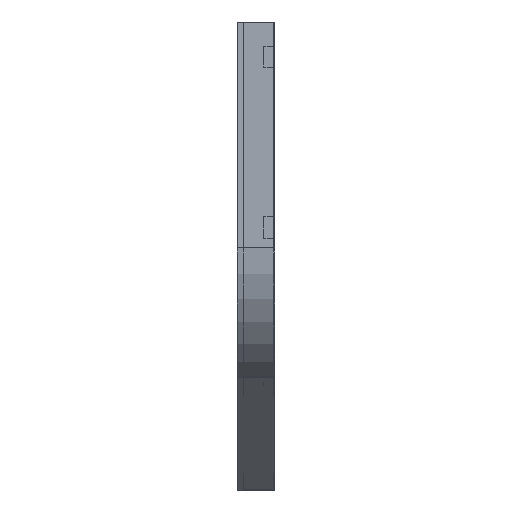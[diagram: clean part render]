
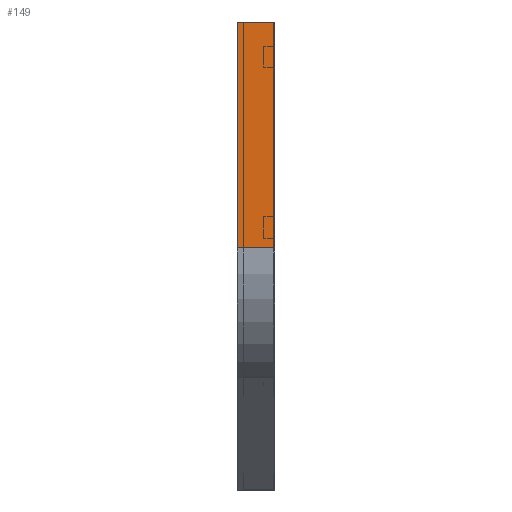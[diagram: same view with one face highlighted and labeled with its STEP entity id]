
A CAD part, left-side view. The second image highlights one B-rep face of the part: STEP entity #149.
In plain terms, the highlighted planar face has unit normal (-1, 0, 0).
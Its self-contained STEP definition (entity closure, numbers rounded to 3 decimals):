
#28 = CARTESIAN_POINT ( 'NONE',  ( 0., 0., 0. ) ) ;
#32 = VECTOR ( 'NONE', #662, 1000. ) ;
#63 = CARTESIAN_POINT ( 'NONE',  ( 0., 75., 0. ) ) ;
#90 = LINE ( 'NONE', #63, #32 ) ;
#149 = ADVANCED_FACE ( 'NONE', ( #1762 ), #1768, .F. ) ;
#195 = AXIS2_PLACEMENT_3D ( 'NONE', #28, #758, #857 ) ;
#294 = ORIENTED_EDGE ( 'NONE', *, *, #405, .F. ) ;
#349 = DIRECTION ( 'NONE',  ( 0., -1., 0. ) ) ;
#405 = EDGE_CURVE ( 'NONE', #530, #1591, #482, .T. ) ;
#482 = LINE ( 'NONE', #1827, #1199 ) ;
#501 = LINE ( 'NONE', #1642, #989 ) ;
#530 = VERTEX_POINT ( 'NONE', #1707 ) ;
#591 = EDGE_LOOP ( 'NONE', ( #294, #1171, #1607, #1717 ) ) ;
#649 = LINE ( 'NONE', #1235, #747 ) ;
#662 = DIRECTION ( 'NONE',  ( 0., 0., -1. ) ) ;
#747 = VECTOR ( 'NONE', #1817, 1000. ) ;
#758 = DIRECTION ( 'NONE',  ( 1., 0., 0. ) ) ;
#762 = CARTESIAN_POINT ( 'NONE',  ( 0., 75., -454.145 ) ) ;
#857 = DIRECTION ( 'NONE',  ( 0., 0., -1. ) ) ;
#933 = DIRECTION ( 'NONE',  ( 0., 0., -1. ) ) ;
#989 = VECTOR ( 'NONE', #349, 1000. ) ;
#1018 = EDGE_CURVE ( 'NONE', #1089, #530, #501, .T. ) ;
#1035 = VERTEX_POINT ( 'NONE', #762 ) ;
#1089 = VERTEX_POINT ( 'NONE', #1689 ) ;
#1171 = ORIENTED_EDGE ( 'NONE', *, *, #1018, .F. ) ;
#1199 = VECTOR ( 'NONE', #933, 1000. ) ;
#1235 = CARTESIAN_POINT ( 'NONE',  ( 0., 0., -454.145 ) ) ;
#1276 = CARTESIAN_POINT ( 'NONE',  ( 0., 0., -454.145 ) ) ;
#1591 = VERTEX_POINT ( 'NONE', #1276 ) ;
#1607 = ORIENTED_EDGE ( 'NONE', *, *, #1865, .T. ) ;
#1642 = CARTESIAN_POINT ( 'NONE',  ( 0., 0., 0. ) ) ;
#1689 = CARTESIAN_POINT ( 'NONE',  ( 0., 75., 0. ) ) ;
#1707 = CARTESIAN_POINT ( 'NONE',  ( 0., 0., 0. ) ) ;
#1717 = ORIENTED_EDGE ( 'NONE', *, *, #1798, .T. ) ;
#1762 = FACE_OUTER_BOUND ( 'NONE', #591, .T. ) ;
#1768 = PLANE ( 'NONE',  #195 ) ;
#1798 = EDGE_CURVE ( 'NONE', #1035, #1591, #649, .T. ) ;
#1817 = DIRECTION ( 'NONE',  ( 0., -1., 0. ) ) ;
#1827 = CARTESIAN_POINT ( 'NONE',  ( 0., 0., 0. ) ) ;
#1865 = EDGE_CURVE ( 'NONE', #1089, #1035, #90, .T. ) ;
